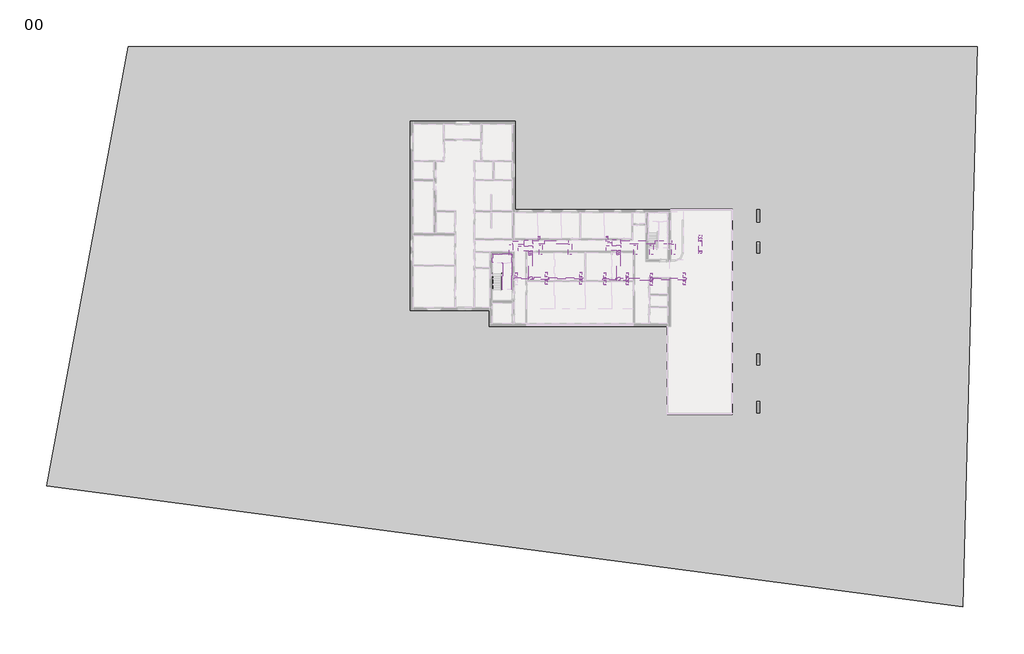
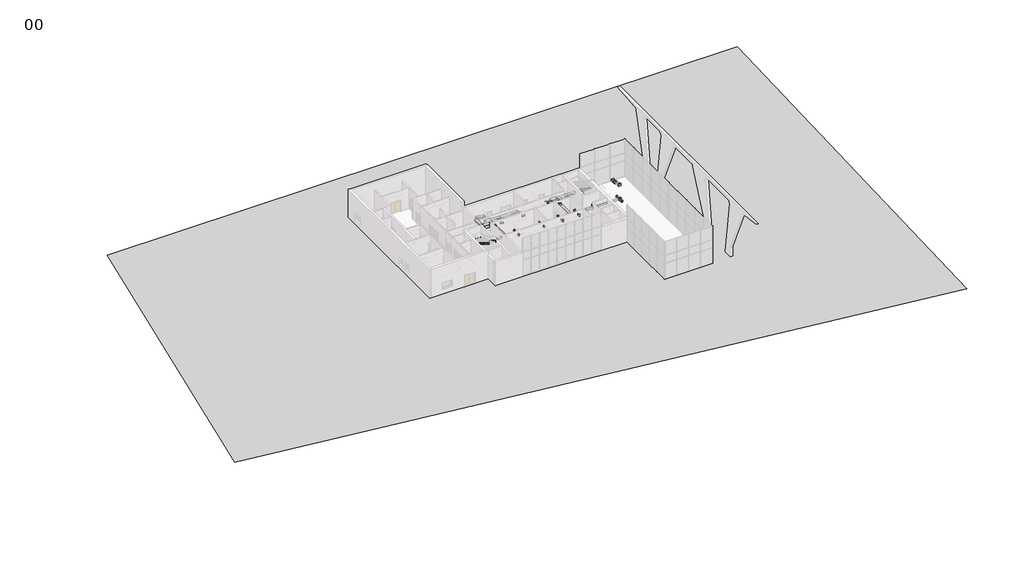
# One storey, part 11 of 12: 45 duct fittings, 45 duct segments, 9 members, 3 proxies.
"""IFC4 building model written with IfcOpenShell, lengths in millimetres."""

from ifc_helpers import new_model, si_unit, frame, origin, place, context, project, spatial, polyline, outline, extrude, faceted_brep, triangles, transform, mapped, element, save
from components import proxy_14_kw_0309e4c2, m_rectangular_duct_cross_standard_bcfa0da6, m_rectangular_duct_cross_standard_d3c43166, m_rectangular_duct_elbow_mitered_standard_79ac9f87, m_rectangular_duct_elbow_mitered_standard_d64d472b, m_rectangular_duct_endcap_standard_ffc747e0, m_rectangular_duct_endcap_standard_359dc76e, m_rectangular_duct_takeoff_standard_e76cbc94, m_rectangular_duct_takeoff_standard_1d6a8af3, m_rectangular_duct_takeoff_standard_c4c0db23, m_rectangular_duct_tee_standard_3909d353, m_rectangular_duct_tee_standard_d7adc033, m_rectangular_duct_transition_angle_45_degree_31185545, m_rectangular_duct_transition_angle_45_degree_3d3c11d7, m_rectangular_duct_transition_angle_45_degree_cab7309d, m_rectangular_duct_transition_angle_45_degree_3830beb0, m_rectangular_duct_transition_angle_45_degree_30f54a79, m_rectangular_duct_transition_angle_45_degree_03303498, m_rectangular_duct_transition_angle_45_degree_0ac15c82, m_rectangular_duct_transition_angle_45_degree_5227b69a, m_rectangular_duct_transition_angle_45_degree_8010bd64, m_rectangular_to_round_duct_transition_angle_45_degree_26f3b062, m_rectangular_to_round_duct_transition_angle_45_degree_5a3a7efe, m_rectangular_to_round_duct_transition_angle_45_degree_6eaa8da4

model = new_model("IFC4")

# Units and contexts
model_context = context("Model", 3, world=origin())
ifc_project = project(units=[si_unit("LENGTHUNIT", "METRE", prefix="MILLI")], contexts=[model_context])

# Site, building, storey
site = spatial("IfcSite", under=ifc_project)
building = spatial("IfcBuilding", under=site)
storey = spatial("IfcBuildingStorey", under=building, Name="00", Elevation=0.0)

# Proxies
placement = place(None, origin())
element("IfcBuildingElementProxy", 1, Name="Building Element Proxy", at=placement, inside=storey, context=model_context, shape_type="Tessellation", body=[
    triangles([(373960.8761719, -359449.724707, 0.0), (486915.2094727, -359492.6244141, 0.0), (484957.7847656, -434074.7138672, 0.0), (363074.3220703, -417951.6049805, 0.0)], [[1, 4, 3], [3, 2, 1]], closed=False),
])
proxy_14_kw_shape = proxy_14_kw_0309e4c2(model_context)
element("IfcBuildingElementProxy", 2, Name="M_WSHP - Horizontal - High Efficiency - 7-18 kW - Left Return - Right Discharge : 14 kW", ObjectType="M_WSHP - Horizontal - High Efficiency - 7-18 kW - Left Return - Right Discharge : 14 kW", at=placement, inside=storey, context=model_context, shape_type="MappedRepresentation", body=[
    mapped(proxy_14_kw_shape, transform((425823.5152403, -386020.6171526, 3297.6296249), x_axis=(0.0, -1.0, 0.0), y_axis=(1.0, 0.0, 0.0), z_axis=(0.0, 0.0, 1.0))),
])
element("IfcBuildingElementProxy", 3, Name="M_WSHP - Horizontal - High Efficiency - 7-18 kW - Left Return - Right Discharge : 14 kW", ObjectType="M_WSHP - Horizontal - High Efficiency - 7-18 kW - Left Return - Right Discharge : 14 kW", at=placement, inside=storey, context=model_context, shape_type="MappedRepresentation", body=[
    mapped(proxy_14_kw_shape, transform((437523.5152403, -385953.3742265, 3297.6296249), x_axis=(0.0, -1.0, 0.0), y_axis=(1.0, 0.0, 0.0), z_axis=(0.0, 0.0, 1.0))),
])

# Duct fittings
m_rectangular_duct_cross_standard_shape = m_rectangular_duct_cross_standard_bcfa0da6(model_context)
element("IfcDuctFitting", 4, ObjectType="M_Rectangular Duct Cross : Standard", at=placement, inside=storey, context=model_context, shape_type="MappedRepresentation", body=[
    mapped(m_rectangular_duct_cross_standard_shape, transform((440349.0152402, -390423.0371375, 3547.5296249), x_axis=(1.0, 0.0, 0.0), y_axis=(0.0, 1.0, 0.0), z_axis=(0.0, 0.0, 1.0))),
])
m_rectangular_duct_cross_standard_2_shape = m_rectangular_duct_cross_standard_d3c43166(model_context)
element("IfcDuctFitting", 5, ObjectType="M_Rectangular Duct Cross : Standard", at=placement, inside=storey, context=model_context, shape_type="MappedRepresentation", body=[
    mapped(m_rectangular_duct_cross_standard_2_shape, transform((443534.0152402, -390423.0371375, 3547.5296249), x_axis=(1.0, 0.0, 0.0), y_axis=(0.0, 1.0, 0.0), z_axis=(0.0, 0.0, 1.0))),
])
m_rectangular_duct_elbow_mitered_standard_shape = m_rectangular_duct_elbow_mitered_standard_79ac9f87(model_context)
element("IfcDuctFitting", 6, ObjectType="M_Rectangular Duct Elbow - Mitered : Standard", at=placement, inside=storey, context=model_context, shape_type="MappedRepresentation", body=[
    mapped(m_rectangular_duct_elbow_mitered_standard_shape, transform((450068.2140217, -384744.0335236, 2897.1296249), x_axis=(0.0, 1.0, 0.0), y_axis=(-1.0, 0.0, 0.0), z_axis=(0.0, 0.0, 1.0))),
])
m_rectangular_duct_elbow_mitered_standard_2_shape = m_rectangular_duct_elbow_mitered_standard_d64d472b(model_context)
element("IfcDuctFitting", 7, ObjectType="M_Rectangular Duct Elbow - Mitered : Standard", at=placement, inside=storey, context=model_context, shape_type="MappedRepresentation", body=[
    mapped(m_rectangular_duct_elbow_mitered_standard_2_shape, transform((450068.2140217, -385315.5954404, 2897.1296249), x_axis=(0.0, -1.0, 0.0), y_axis=(0.0, 0.0, 1.0), z_axis=(-1.0, 0.0, 0.0))),
])
element("IfcDuctFitting", 8, ObjectType="M_Rectangular Duct Elbow - Mitered : Standard", at=placement, inside=storey, context=model_context, shape_type="MappedRepresentation", body=[
    mapped(m_rectangular_duct_elbow_mitered_standard_2_shape, transform((450068.2140217, -386695.8716067, 3247.1296249), x_axis=(0.0, -0.9693222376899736, 0.2457934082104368), y_axis=(0.0, -0.2457934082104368, -0.9693222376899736), z_axis=(1.0, 0.0, 0.0))),
])
m_rectangular_duct_endcap_standard_shape = m_rectangular_duct_endcap_standard_ffc747e0(model_context)
element("IfcDuctFitting", 9, ObjectType="M_Rectangular Duct Endcap : Standard", at=placement, inside=storey, context=model_context, shape_type="MappedRepresentation", body=[
    mapped(m_rectangular_duct_endcap_standard_shape, transform((434399.0152402, -390313.0198881, 3547.5296249), x_axis=(1.0, 0.0, 0.0), y_axis=(0.0, 1.0, 0.0), z_axis=(0.0, 0.0, 1.0))),
])
element("IfcDuctFitting", 10, ObjectType="M_Rectangular Duct Endcap : Standard", at=placement, inside=storey, context=model_context, shape_type="MappedRepresentation", body=[
    mapped(m_rectangular_duct_endcap_standard_shape, transform((448173.309481, -390423.0371375, 3547.5296249), x_axis=(1.0, 0.0, 0.0), y_axis=(0.0, 1.0, 0.0), z_axis=(0.0, 0.0, 1.0))),
])
m_rectangular_duct_endcap_standard_2_shape = m_rectangular_duct_endcap_standard_359dc76e(model_context)
element("IfcDuctFitting", 11, ObjectType="M_Rectangular Duct Endcap : Standard", at=placement, inside=storey, context=model_context, shape_type="MappedRepresentation", body=[
    mapped(m_rectangular_duct_endcap_standard_2_shape, transform((437099.0152402, -390423.0371375, 3547.5296249), x_axis=(-1.0, 0.0, 0.0), y_axis=(0.0, -1.0, 0.0), z_axis=(0.0, 0.0, 1.0))),
])
m_rectangular_duct_takeoff_standard_shape = m_rectangular_duct_takeoff_standard_e76cbc94(model_context)
element("IfcDuctFitting", 12, ObjectType="M_Rectangular Duct Takeoff : Standard", at=placement, inside=storey, context=model_context, shape_type="MappedRepresentation", body=[
    mapped(m_rectangular_duct_takeoff_standard_shape, transform((434149.0152402, -390438.0198881, 3547.5296249), x_axis=(0.0, -1.0, 0.0), y_axis=(-1.0, 0.0, 0.0), z_axis=(0.0, 0.0, -1.0))),
])
element("IfcDuctFitting", 13, ObjectType="M_Rectangular Duct Takeoff : Standard", at=placement, inside=storey, context=model_context, shape_type="MappedRepresentation", body=[
    mapped(m_rectangular_duct_takeoff_standard_shape, transform((429549.0152402, -390150.5198881, 3547.1296249), x_axis=(0.0, 1.0, 0.0), y_axis=(1.0, 0.0, 0.0), z_axis=(0.0, 0.0, -1.0))),
])
element("IfcDuctFitting", 14, ObjectType="M_Rectangular Duct Takeoff : Standard", at=placement, inside=storey, context=model_context, shape_type="MappedRepresentation", body=[
    mapped(m_rectangular_duct_takeoff_standard_shape, transform((429549.0152402, -390475.5198881, 3547.1296249), x_axis=(0.0, -1.0, 0.0), y_axis=(-1.0, 0.0, 0.0), z_axis=(0.0, 0.0, -1.0))),
])
element("IfcDuctFitting", 15, ObjectType="M_Rectangular Duct Takeoff : Standard", at=placement, inside=storey, context=model_context, shape_type="MappedRepresentation", body=[
    mapped(m_rectangular_duct_takeoff_standard_shape, transform((447923.309481, -390548.0371375, 3547.5296249), x_axis=(0.0, -1.0, 0.0), y_axis=(-1.0, 0.0, 0.0), z_axis=(0.0, 0.0, -1.0))),
])
m_rectangular_duct_takeoff_standard_2_shape = m_rectangular_duct_takeoff_standard_1d6a8af3(model_context)
element("IfcDuctFitting", 16, ObjectType="M_Rectangular Duct Takeoff : Standard", at=placement, inside=storey, context=model_context, shape_type="MappedRepresentation", body=[
    mapped(m_rectangular_duct_takeoff_standard_2_shape, transform((434149.0152402, -390188.0198881, 3547.5296249), x_axis=(0.0, 1.0, 0.0), y_axis=(1.0, 0.0, 0.0), z_axis=(0.0, 0.0, -1.0))),
])
element("IfcDuctFitting", 17, ObjectType="M_Rectangular Duct Takeoff : Standard", at=placement, inside=storey, context=model_context, shape_type="MappedRepresentation", body=[
    mapped(m_rectangular_duct_takeoff_standard_2_shape, transform((447923.309481, -390298.0371375, 3547.5296249), x_axis=(0.0, 1.0, 0.0), y_axis=(1.0, 0.0, 0.0), z_axis=(0.0, 0.0, -1.0))),
])
m_rectangular_duct_takeoff_standard_3_shape = m_rectangular_duct_takeoff_standard_c4c0db23(model_context)
element("IfcDuctFitting", 18, ObjectType="M_Rectangular Duct Takeoff : Standard", at=placement, inside=storey, context=model_context, shape_type="MappedRepresentation", body=[
    mapped(m_rectangular_duct_takeoff_standard_3_shape, transform((437349.0152402, -390310.5371375, 3547.5296249), x_axis=(0.0, 1.0, 0.0), y_axis=(1.0, 0.0, 0.0), z_axis=(0.0, 0.0, -1.0))),
])
element("IfcDuctFitting", 19, ObjectType="M_Rectangular Duct Takeoff : Standard", at=placement, inside=storey, context=model_context, shape_type="MappedRepresentation", body=[
    mapped(m_rectangular_duct_takeoff_standard_3_shape, transform((437349.0152402, -390535.5371375, 3547.5296249), x_axis=(0.0, -1.0, 0.0), y_axis=(-1.0, 0.0, 0.0), z_axis=(0.0, 0.0, -1.0))),
])
m_rectangular_duct_tee_standard_shape = m_rectangular_duct_tee_standard_3909d353(model_context)
element("IfcDuctFitting", 20, ObjectType="M_Rectangular Duct Tee : Standard", at=placement, inside=storey, context=model_context, shape_type="MappedRepresentation", body=[
    mapped(m_rectangular_duct_tee_standard_shape, transform((427455.2152403, -390313.0198881, 3547.5296249), x_axis=(1.0, 0.0, 0.0), y_axis=(0.0, -1.0, 0.0), z_axis=(0.0, 0.0, -1.0))),
])
m_rectangular_duct_tee_standard_2_shape = m_rectangular_duct_tee_standard_d7adc033(model_context)
element("IfcDuctFitting", 21, ObjectType="M_Rectangular Duct Tee : Standard", at=placement, inside=storey, context=model_context, shape_type="MappedRepresentation", body=[
    mapped(m_rectangular_duct_tee_standard_2_shape, transform((439155.2152403, -390423.0371375, 3547.5296249), x_axis=(1.0, 0.0, 0.0), y_axis=(0.0, -1.0, 0.0), z_axis=(0.0, 0.0, -1.0))),
])
m_rectangular_duct_transition_angle_45_degree_shape = m_rectangular_duct_transition_angle_45_degree_31185545(model_context)
element("IfcDuctFitting", 22, ObjectType="M_Rectangular Duct Transition - Angle : 45 Degree", at=placement, inside=storey, context=model_context, shape_type="MappedRepresentation", body=[
    mapped(m_rectangular_duct_transition_angle_45_degree_shape, transform((427455.2152403, -386691.1171526, 3560.5296249), x_axis=(0.0, -1.0, 0.0), y_axis=(1.0, 0.0, 0.0), z_axis=(0.0, 0.0, 1.0))),
])
element("IfcDuctFitting", 23, ObjectType="M_Rectangular Duct Transition - Angle : 45 Degree", at=placement, inside=storey, context=model_context, shape_type="MappedRepresentation", body=[
    mapped(m_rectangular_duct_transition_angle_45_degree_shape, transform((439155.2152403, -386623.8742265, 3560.5296249), x_axis=(0.0, -1.0, 0.0), y_axis=(1.0, 0.0, 0.0), z_axis=(0.0, 0.0, 1.0))),
])
m_rectangular_duct_transition_angle_45_degree_2_shape = m_rectangular_duct_transition_angle_45_degree_3d3c11d7(model_context)
element("IfcDuctFitting", 24, ObjectType="M_Rectangular Duct Transition - Angle : 45 Degree", at=placement, inside=storey, context=model_context, shape_type="MappedRepresentation", body=[
    mapped(m_rectangular_duct_transition_angle_45_degree_2_shape, transform((427455.2152403, -387009.194812, 3560.5296249), x_axis=(0.0, -1.0, 0.0), y_axis=(-1.0, 0.0, 0.0), z_axis=(0.0, 0.0, -1.0))),
])
element("IfcDuctFitting", 25, ObjectType="M_Rectangular Duct Transition - Angle : 45 Degree", at=placement, inside=storey, context=model_context, shape_type="MappedRepresentation", body=[
    mapped(m_rectangular_duct_transition_angle_45_degree_2_shape, transform((439155.2152403, -386941.9518859, 3560.5296249), x_axis=(0.0, -1.0, 0.0), y_axis=(-1.0, 0.0, 0.0), z_axis=(0.0, 0.0, -1.0))),
])
m_rectangular_duct_transition_angle_45_degree_3_shape = m_rectangular_duct_transition_angle_45_degree_cab7309d(model_context)
element("IfcDuctFitting", 26, ObjectType="M_Rectangular Duct Transition - Angle : 45 Degree", at=placement, inside=storey, context=model_context, shape_type="MappedRepresentation", body=[
    mapped(m_rectangular_duct_transition_angle_45_degree_3_shape, transform((427217.7152403, -390313.0198881, 3547.5296249), x_axis=(-1.0, 0.0, 0.0), y_axis=(0.0, -1.0, 0.0), z_axis=(0.0, 0.0, 1.0))),
])
m_rectangular_duct_transition_angle_45_degree_4_shape = m_rectangular_duct_transition_angle_45_degree_3830beb0(model_context)
element("IfcDuctFitting", 27, ObjectType="M_Rectangular Duct Transition - Angle : 45 Degree", at=placement, inside=storey, context=model_context, shape_type="MappedRepresentation", body=[
    mapped(m_rectangular_duct_transition_angle_45_degree_4_shape, transform((427692.7152403, -390313.0198881, 3547.5296249), x_axis=(1.0, 0.0, 0.0), y_axis=(0.0, -1.0, 0.0), z_axis=(0.0, 0.0, -1.0))),
])
m_rectangular_duct_transition_angle_45_degree_5_shape = m_rectangular_duct_transition_angle_45_degree_30f54a79(model_context)
element("IfcDuctFitting", 28, ObjectType="M_Rectangular Duct Transition - Angle : 45 Degree", at=placement, inside=storey, context=model_context, shape_type="MappedRepresentation", body=[
    mapped(m_rectangular_duct_transition_angle_45_degree_5_shape, transform((429811.6822317, -390313.0198881, 3547.5296249), x_axis=(1.0, 0.0, 0.0), y_axis=(0.0, -1.0, 0.0), z_axis=(0.0, 0.0, -1.0))),
])
element("IfcDuctFitting", 29, ObjectType="M_Rectangular Duct Transition - Angle : 45 Degree", at=placement, inside=storey, context=model_context, shape_type="MappedRepresentation", body=[
    mapped(m_rectangular_duct_transition_angle_45_degree_5_shape, transform((443684.0152402, -390423.0371375, 3547.5296249), x_axis=(1.0, 0.0, 0.0), y_axis=(0.0, 1.0, 0.0), z_axis=(0.0, 0.0, 1.0))),
])
m_rectangular_duct_transition_angle_45_degree_6_shape = m_rectangular_duct_transition_angle_45_degree_03303498(model_context)
element("IfcDuctFitting", 30, ObjectType="M_Rectangular Duct Transition - Angle : 45 Degree", at=placement, inside=storey, context=model_context, shape_type="MappedRepresentation", body=[
    mapped(m_rectangular_duct_transition_angle_45_degree_6_shape, transform((438917.7152403, -390423.0371375, 3547.5296249), x_axis=(-1.0, 0.0, 0.0), y_axis=(0.0, -1.0, 0.0), z_axis=(0.0, 0.0, 1.0))),
])
m_rectangular_duct_transition_angle_45_degree_7_shape = m_rectangular_duct_transition_angle_45_degree_0ac15c82(model_context)
element("IfcDuctFitting", 31, ObjectType="M_Rectangular Duct Transition - Angle : 45 Degree", at=placement, inside=storey, context=model_context, shape_type="MappedRepresentation", body=[
    mapped(m_rectangular_duct_transition_angle_45_degree_7_shape, transform((440499.0152402, -390423.0371375, 3547.5296249), x_axis=(1.0, 0.0, 0.0), y_axis=(0.0, 1.0, 0.0), z_axis=(0.0, 0.0, 1.0))),
])
m_rectangular_duct_transition_angle_45_degree_8_shape = m_rectangular_duct_transition_angle_45_degree_5227b69a(model_context)
element("IfcDuctFitting", 32, ObjectType="M_Rectangular Duct Transition - Angle : 45 Degree", at=placement, inside=storey, context=model_context, shape_type="MappedRepresentation", body=[
    mapped(m_rectangular_duct_transition_angle_45_degree_8_shape, transform((440349.0152402, -390623.0371375, 3547.5296249), x_axis=(0.0, -1.0, 0.0), y_axis=(1.0, 0.0, 0.0), z_axis=(0.0, 0.0, 1.0))),
])
element("IfcDuctFitting", 33, ObjectType="M_Rectangular Duct Transition - Angle : 45 Degree", at=placement, inside=storey, context=model_context, shape_type="MappedRepresentation", body=[
    mapped(m_rectangular_duct_transition_angle_45_degree_8_shape, transform((440349.0152402, -390223.0371375, 3547.5296249), x_axis=(0.0, 1.0, 0.0), y_axis=(-1.0, 0.0, 0.0), z_axis=(0.0, 0.0, 1.0))),
])
m_rectangular_duct_transition_angle_45_degree_9_shape = m_rectangular_duct_transition_angle_45_degree_8010bd64(model_context)
element("IfcDuctFitting", 34, ObjectType="M_Rectangular Duct Transition - Angle : 45 Degree", at=placement, inside=storey, context=model_context, shape_type="MappedRepresentation", body=[
    mapped(m_rectangular_duct_transition_angle_45_degree_9_shape, transform((443534.0152402, -390610.5371375, 3547.5296249), x_axis=(0.0, -1.0, 0.0), y_axis=(1.0, 0.0, 0.0), z_axis=(0.0, 0.0, 1.0))),
])
element("IfcDuctFitting", 35, ObjectType="M_Rectangular Duct Transition - Angle : 45 Degree", at=placement, inside=storey, context=model_context, shape_type="MappedRepresentation", body=[
    mapped(m_rectangular_duct_transition_angle_45_degree_9_shape, transform((443534.0152402, -390235.5371375, 3547.5296249), x_axis=(0.0, 1.0, 0.0), y_axis=(-1.0, 0.0, 0.0), z_axis=(0.0, 0.0, 1.0))),
])
m_rectangular_to_round_duct_transition_angle_45_degree_shape = m_rectangular_to_round_duct_transition_angle_45_degree_26f3b062(model_context)
element("IfcDuctFitting", 36, ObjectType="M_Rectangular to Round Duct Transition - Angle : 45 Degree", at=placement, inside=storey, context=model_context, shape_type="MappedRepresentation", body=[
    mapped(m_rectangular_to_round_duct_transition_angle_45_degree_shape, transform((434149.0152402, -391058.4756468, 3547.5296249), x_axis=(0.0, -1.0, 0.0), y_axis=(-1.0, 0.0, 0.0), z_axis=(0.0, 0.0, -1.0))),
])
element("IfcDuctFitting", 37, ObjectType="M_Rectangular to Round Duct Transition - Angle : 45 Degree", at=placement, inside=storey, context=model_context, shape_type="MappedRepresentation", body=[
    mapped(m_rectangular_to_round_duct_transition_angle_45_degree_shape, transform((429549.0152402, -389567.5641294, 3547.1296249), x_axis=(0.0, 1.0, 0.0), y_axis=(1.0, 0.0, 0.0), z_axis=(0.0, 0.0, -1.0))),
])
element("IfcDuctFitting", 38, ObjectType="M_Rectangular to Round Duct Transition - Angle : 45 Degree", at=placement, inside=storey, context=model_context, shape_type="MappedRepresentation", body=[
    mapped(m_rectangular_to_round_duct_transition_angle_45_degree_shape, transform((429549.0152402, -391083.8146334, 3547.1296249), x_axis=(0.0, -1.0, 0.0), y_axis=(-1.0, 0.0, 0.0), z_axis=(0.0, 0.0, -1.0))),
])
element("IfcDuctFitting", 39, ObjectType="M_Rectangular to Round Duct Transition - Angle : 45 Degree", at=placement, inside=storey, context=model_context, shape_type="MappedRepresentation", body=[
    mapped(m_rectangular_to_round_duct_transition_angle_45_degree_shape, transform((434149.0152402, -389542.2251428, 3547.5296249), x_axis=(0.0, 1.0, 0.0), y_axis=(1.0, 0.0, 0.0), z_axis=(0.0, 0.0, -1.0))),
])
element("IfcDuctFitting", 40, ObjectType="M_Rectangular to Round Duct Transition - Angle : 45 Degree", at=placement, inside=storey, context=model_context, shape_type="MappedRepresentation", body=[
    mapped(m_rectangular_to_round_duct_transition_angle_45_degree_shape, transform((447923.309481, -391165.8265467, 3547.5296249), x_axis=(0.0, -1.0, 0.0), y_axis=(-1.0, 0.0, 0.0), z_axis=(0.0, 0.0, -1.0))),
])
element("IfcDuctFitting", 41, ObjectType="M_Rectangular to Round Duct Transition - Angle : 45 Degree", at=placement, inside=storey, context=model_context, shape_type="MappedRepresentation", body=[
    mapped(m_rectangular_to_round_duct_transition_angle_45_degree_shape, transform((443534.0152402, -391211.8340752, 3547.5296249), x_axis=(0.0, -1.0, 0.0), y_axis=(-1.0, 0.0, 0.0), z_axis=(0.0, 0.0, -1.0))),
])
element("IfcDuctFitting", 42, ObjectType="M_Rectangular to Round Duct Transition - Angle : 45 Degree", at=placement, inside=storey, context=model_context, shape_type="MappedRepresentation", body=[
    mapped(m_rectangular_to_round_duct_transition_angle_45_degree_shape, transform((443534.0152402, -389695.5835712, 3547.5296249), x_axis=(0.0, 1.0, 0.0), y_axis=(1.0, 0.0, 0.0), z_axis=(0.0, 0.0, -1.0))),
])
element("IfcDuctFitting", 43, ObjectType="M_Rectangular to Round Duct Transition - Angle : 45 Degree", at=placement, inside=storey, context=model_context, shape_type="MappedRepresentation", body=[
    mapped(m_rectangular_to_round_duct_transition_angle_45_degree_shape, transform((440349.0152402, -391150.4907039, 3547.5296249), x_axis=(0.0, -1.0, 0.0), y_axis=(-1.0, 0.0, 0.0), z_axis=(0.0, 0.0, -1.0))),
])
element("IfcDuctFitting", 44, ObjectType="M_Rectangular to Round Duct Transition - Angle : 45 Degree", at=placement, inside=storey, context=model_context, shape_type="MappedRepresentation", body=[
    mapped(m_rectangular_to_round_duct_transition_angle_45_degree_shape, transform((440349.0152402, -389634.2401999, 3547.5296249), x_axis=(0.0, 1.0, 0.0), y_axis=(1.0, 0.0, 0.0), z_axis=(0.0, 0.0, -1.0))),
])
element("IfcDuctFitting", 45, ObjectType="M_Rectangular to Round Duct Transition - Angle : 45 Degree", at=placement, inside=storey, context=model_context, shape_type="MappedRepresentation", body=[
    mapped(m_rectangular_to_round_duct_transition_angle_45_degree_shape, transform((425549.0152402, -389634.8070555, 3672.5296249), x_axis=(0.0, 1.0, 0.0), y_axis=(-1.0, 0.0, 0.0), z_axis=(0.0, 0.0, 1.0))),
])
m_rectangular_to_round_duct_transition_angle_45_degree_2_shape = m_rectangular_to_round_duct_transition_angle_45_degree_5a3a7efe(model_context)
element("IfcDuctFitting", 46, ObjectType="M_Rectangular to Round Duct Transition - Angle : 45 Degree", at=placement, inside=storey, context=model_context, shape_type="MappedRepresentation", body=[
    mapped(m_rectangular_to_round_duct_transition_angle_45_degree_2_shape, transform((437349.0152402, -389634.2401999, 3547.5296249), x_axis=(0.0, 1.0, 0.0), y_axis=(1.0, 0.0, 0.0), z_axis=(0.0, 0.0, -1.0))),
])
element("IfcDuctFitting", 47, ObjectType="M_Rectangular to Round Duct Transition - Angle : 45 Degree", at=placement, inside=storey, context=model_context, shape_type="MappedRepresentation", body=[
    mapped(m_rectangular_to_round_duct_transition_angle_45_degree_2_shape, transform((437349.0152402, -391150.4907039, 3547.5296249), x_axis=(0.0, -1.0, 0.0), y_axis=(-1.0, 0.0, 0.0), z_axis=(0.0, 0.0, -1.0))),
])
m_rectangular_to_round_duct_transition_angle_45_degree_3_shape = m_rectangular_to_round_duct_transition_angle_45_degree_6eaa8da4(model_context)
element("IfcDuctFitting", 48, ObjectType="M_Rectangular to Round Duct Transition - Angle : 45 Degree", at=placement, inside=storey, context=model_context, shape_type="MappedRepresentation", body=[
    mapped(m_rectangular_to_round_duct_transition_angle_45_degree_3_shape, transform((447923.309481, -389587.0760427, 3547.5296249), x_axis=(0.0, 1.0, 0.0), y_axis=(-1.0, 0.0, 0.0), z_axis=(0.0, 0.0, 1.0))),
])

# Duct segments
element("IfcDuctSegment", 49, ObjectType="Mitered Elbows / Taps", at=placement, inside=storey, context=model_context, shape_type="SweptSolid", body=[
    extrude(outline(polyline([(425674.0152402, -390086.4198881), (425424.0152402, -390086.4198881), (425424.0152402, -389634.8070555), (425674.0152402, -389634.8070555), (425674.0152402, -390086.4198881)])), frame((0.0, 0.0, 3547.5296249), z_axis=(0.0, 0.0, 1.0), x_axis=(1.0, 0.0, 0.0)), (0.0, 0.0, 1.0), 250.0),
])
element("IfcDuctSegment", 50, ObjectType="Mitered Elbows / Taps", at=placement, inside=storey, context=model_context, shape_type="SweptSolid", body=[
    extrude(outline(polyline([(429424.0152402, -389567.5641294), (429674.0152402, -389567.5641294), (429674.0152402, -390048.9198881), (429424.0152402, -390048.9198881), (429424.0152402, -389567.5641294)])), frame((0.0, 0.0, 3422.1296249), z_axis=(0.0, 0.0, 1.0), x_axis=(1.0, 0.0, 0.0)), (0.0, 0.0, 1.0), 250.0),
])
element("IfcDuctSegment", 51, ObjectType="Mitered Elbows / Taps", at=placement, inside=storey, context=model_context, shape_type="SweptSolid", body=[
    extrude(outline(polyline([(429674.0152402, -391083.8146334), (429424.0152402, -391083.8146334), (429424.0152402, -390577.1198881), (429674.0152402, -390577.1198881), (429674.0152402, -391083.8146334)])), frame((0.0, 0.0, 3422.1296249), z_axis=(0.0, 0.0, 1.0), x_axis=(1.0, 0.0, 0.0)), (0.0, 0.0, 1.0), 250.0),
])
element("IfcDuctSegment", 52, ObjectType="Mitered Elbows / Taps", at=placement, inside=storey, context=model_context, shape_type="SweptSolid", body=[
    extrude(outline(polyline([(434024.0152402, -389542.2251428), (434274.0152402, -389542.2251428), (434274.0152402, -390086.4198881), (434024.0152402, -390086.4198881), (434024.0152402, -389542.2251428)])), frame((0.0, 0.0, 3422.5296249), z_axis=(0.0, 0.0, 1.0), x_axis=(1.0, 0.0, 0.0)), (0.0, 0.0, 1.0), 250.0),
])
element("IfcDuctSegment", 53, ObjectType="Mitered Elbows / Taps", at=placement, inside=storey, context=model_context, shape_type="SweptSolid", body=[
    extrude(outline(polyline([(434024.0152402, -390539.6198881), (434274.0152402, -390539.6198881), (434274.0152402, -391058.4756468), (434024.0152402, -391058.4756468), (434024.0152402, -390539.6198881)])), frame((0.0, 0.0, 3422.5296249), z_axis=(0.0, 0.0, 1.0), x_axis=(1.0, 0.0, 0.0)), (0.0, 0.0, 1.0), 250.0),
])
element("IfcDuctSegment", 54, ObjectType="Mitered Elbows / Taps", at=placement, inside=storey, context=model_context, shape_type="SweptSolid", body=[
    extrude(outline(polyline([(437474.0152402, -390208.9371375), (437224.0152402, -390208.9371375), (437224.0152402, -389634.2401999), (437474.0152402, -389634.2401999), (437474.0152402, -390208.9371375)])), frame((0.0, 0.0, 3435.0296249), z_axis=(0.0, 0.0, 1.0), x_axis=(1.0, 0.0, 0.0)), (0.0, 0.0, 1.0), 225.0),
])
element("IfcDuctSegment", 55, ObjectType="Mitered Elbows / Taps", at=placement, inside=storey, context=model_context, shape_type="SweptSolid", body=[
    extrude(outline(polyline([(437474.0152402, -391150.4907039), (437224.0152402, -391150.4907039), (437224.0152402, -390637.1371375), (437474.0152402, -390637.1371375), (437474.0152402, -391150.4907039)])), frame((0.0, 0.0, 3435.0296249), z_axis=(0.0, 0.0, 1.0), x_axis=(1.0, 0.0, 0.0)), (0.0, 0.0, 1.0), 225.0),
])
element("IfcDuctSegment", 56, ObjectType="Mitered Elbows / Taps", at=placement, inside=storey, context=model_context, shape_type="SweptSolid", body=[
    extrude(outline(polyline([(440474.0152402, -390098.0371375), (440224.0152402, -390098.0371375), (440224.0152402, -389634.2401999), (440474.0152402, -389634.2401999), (440474.0152402, -390098.0371375)])), frame((0.0, 0.0, 3422.5296249), z_axis=(0.0, 0.0, 1.0), x_axis=(1.0, 0.0, 0.0)), (0.0, 0.0, 1.0), 250.0),
])
element("IfcDuctSegment", 57, ObjectType="Mitered Elbows / Taps", at=placement, inside=storey, context=model_context, shape_type="SweptSolid", body=[
    extrude(outline(polyline([(440224.0152402, -390748.0371375), (440474.0152402, -390748.0371375), (440474.0152402, -391150.4907039), (440224.0152402, -391150.4907039), (440224.0152402, -390748.0371375)])), frame((0.0, 0.0, 3422.5296249), z_axis=(0.0, 0.0, 1.0), x_axis=(1.0, 0.0, 0.0)), (0.0, 0.0, 1.0), 250.0),
])
element("IfcDuctSegment", 58, ObjectType="Mitered Elbows / Taps", at=placement, inside=storey, context=model_context, shape_type="SweptSolid", body=[
    extrude(outline(polyline([(443659.0152402, -390110.5371375), (443409.0152402, -390110.5371375), (443409.0152402, -389695.5835712), (443659.0152402, -389695.5835712), (443659.0152402, -390110.5371375)])), frame((0.0, 0.0, 3422.5296249), z_axis=(0.0, 0.0, 1.0), x_axis=(1.0, 0.0, 0.0)), (0.0, 0.0, 1.0), 250.0),
])
element("IfcDuctSegment", 59, ObjectType="Mitered Elbows / Taps", at=placement, inside=storey, context=model_context, shape_type="SweptSolid", body=[
    extrude(outline(polyline([(443409.0152402, -390735.5371375), (443659.0152402, -390735.5371375), (443659.0152402, -391211.8340752), (443409.0152402, -391211.8340752), (443409.0152402, -390735.5371375)])), frame((0.0, 0.0, 3422.5296249), z_axis=(0.0, 0.0, 1.0), x_axis=(1.0, 0.0, 0.0)), (0.0, 0.0, 1.0), 250.0),
])
element("IfcDuctSegment", 60, ObjectType="Mitered Elbows / Taps", at=placement, inside=storey, context=model_context, shape_type="SweptSolid", body=[
    extrude(outline(polyline([(447798.309481, -390649.6371375), (448048.309481, -390649.6371375), (448048.309481, -391165.8265467), (447798.309481, -391165.8265467), (447798.309481, -390649.6371375)])), frame((0.0, 0.0, 3422.5296249), z_axis=(0.0, 0.0, 1.0), x_axis=(1.0, 0.0, 0.0)), (0.0, 0.0, 1.0), 250.0),
])
element("IfcDuctSegment", 61, ObjectType="Mitered Elbows / Taps", at=placement, inside=storey, context=model_context, shape_type="SweptSolid", body=[
    extrude(outline(polyline([(427703.1152403, -385995.2171526), (426653.1152403, -385995.2171526), (426653.1152403, -385195.2171526), (427703.1152403, -385195.2171526), (427703.1152403, -385995.2171526)])), frame((0.0, 0.0, 3318.1296249), z_axis=(0.0, 0.0, 1.0), x_axis=(1.0, 0.0, 0.0)), (0.0, 0.0, 1.0), 500.0),
])
element("IfcDuctSegment", 62, ObjectType="Mitered Elbows / Taps", at=placement, inside=storey, context=model_context, shape_type="SweptSolid", body=[
    extrude(outline(polyline([(439403.1152403, -385927.9742265), (438353.1152403, -385927.9742265), (438353.1152403, -385127.9742265), (439403.1152403, -385127.9742265), (439403.1152403, -385927.9742265)])), frame((0.0, 0.0, 3318.1296249), z_axis=(0.0, 0.0, 1.0), x_axis=(1.0, 0.0, 0.0)), (0.0, 0.0, 1.0), 500.0),
])
element("IfcDuctSegment", 63, ObjectType="Mitered Elbows / Taps", at=placement, inside=storey, context=model_context, shape_type="SweptSolid", body=[
    extrude(outline(polyline([(439528.1152403, -385777.9742265), (439528.1152403, -385277.9742265), (444003.1152403, -385277.9742265), (444003.1152403, -385777.9742265), (439528.1152403, -385777.9742265)])), frame((0.0, 0.0, 3443.1296249), z_axis=(0.0, 0.0, 1.0), x_axis=(1.0, 0.0, 0.0)), (0.0, 0.0, 1.0), 250.0),
])
element("IfcDuctSegment", 64, ObjectType="Mitered Elbows / Taps", at=placement, inside=storey, context=model_context, shape_type="SweptSolid", body=[
    extrude(outline(polyline([(444063.4705793, -385752.9742265), (444063.4705793, -385302.9742265), (446253.1152403, -385302.9742265), (446253.1152403, -385752.9742265), (444063.4705793, -385752.9742265)])), frame((0.0, 0.0, 3468.1296249), z_axis=(0.0, 0.0, 1.0), x_axis=(1.0, 0.0, 0.0)), (0.0, 0.0, 1.0), 200.0),
])
element("IfcDuctSegment", 65, ObjectType="Mitered Elbows / Taps", at=placement, inside=storey, context=model_context, shape_type="SweptSolid", body=[
    extrude(outline(polyline([(446278.1152403, -385777.9742265), (446728.1152403, -385777.9742265), (446728.1152403, -387127.9742265), (446278.1152403, -387127.9742265), (446278.1152403, -385777.9742265)])), frame((0.0, 0.0, 3468.1296249), z_axis=(0.0, 0.0, 1.0), x_axis=(1.0, 0.0, 0.0)), (0.0, 0.0, 1.0), 200.0),
])
element("IfcDuctSegment", 66, ObjectType="Mitered Elbows / Taps", at=placement, inside=storey, context=model_context, shape_type="SweptSolid", body=[
    extrude(outline(polyline([(443309.8369942, -385890.4742265), (443759.8369942, -385890.4742265), (443759.8369942, -387127.9742265), (443309.8369942, -387127.9742265), (443309.8369942, -385890.4742265)])), frame((0.0, 0.0, 3468.1296249), z_axis=(0.0, 0.0, 1.0), x_axis=(1.0, 0.0, 0.0)), (0.0, 0.0, 1.0), 200.0),
])
element("IfcDuctSegment", 67, ObjectType="Mitered Elbows / Taps", at=placement, inside=storey, context=model_context, shape_type="SweptSolid", body=[
    extrude(outline(polyline([(441213.4985993, -385890.4742265), (441663.4985993, -385890.4742265), (441663.4985993, -387127.9742265), (441213.4985993, -387127.9742265), (441213.4985993, -385890.4742265)])), frame((0.0, 0.0, 3468.1296249), z_axis=(0.0, 0.0, 1.0), x_axis=(1.0, 0.0, 0.0)), (0.0, 0.0, 1.0), 200.0),
])
element("IfcDuctSegment", 68, ObjectType="Mitered Elbows / Taps", at=placement, inside=storey, context=model_context, shape_type="SweptSolid", body=[
    extrude(outline(polyline([(427828.1152403, -385777.9742265), (427828.1152403, -385277.9742265), (429303.1152403, -385277.9742265), (429303.1152403, -385777.9742265), (427828.1152403, -385777.9742265)])), frame((0.0, 0.0, 3443.1296249), z_axis=(0.0, 0.0, 1.0), x_axis=(1.0, 0.0, 0.0)), (0.0, 0.0, 1.0), 250.0),
])
element("IfcDuctSegment", 69, ObjectType="Mitered Elbows / Taps", at=placement, inside=storey, context=model_context, shape_type="SweptSolid", body=[
    extrude(outline(polyline([(429363.4705793, -385752.9742265), (429363.4705793, -385302.9742265), (432453.1152403, -385302.9742265), (432453.1152403, -385752.9742265), (429363.4705793, -385752.9742265)])), frame((0.0, 0.0, 3468.1296249), z_axis=(0.0, 0.0, 1.0), x_axis=(1.0, 0.0, 0.0)), (0.0, 0.0, 1.0), 200.0),
])
element("IfcDuctSegment", 70, ObjectType="Mitered Elbows / Taps", at=placement, inside=storey, context=model_context, shape_type="SweptSolid", body=[
    extrude(outline(polyline([(432478.1152403, -385777.9742265), (432928.1152403, -385777.9742265), (432928.1152403, -387127.9742265), (432478.1152403, -387127.9742265), (432478.1152403, -385777.9742265)])), frame((0.0, 0.0, 3468.1296249), z_axis=(0.0, 0.0, 1.0), x_axis=(1.0, 0.0, 0.0)), (0.0, 0.0, 1.0), 200.0),
])
element("IfcDuctSegment", 71, ObjectType="Mitered Elbows / Taps", at=placement, inside=storey, context=model_context, shape_type="SweptSolid", body=[
    extrude(outline(polyline([(428590.8426861, -385890.4742265), (429040.8426861, -385890.4742265), (429040.8426861, -387127.9742265), (428590.8426861, -387127.9742265), (428590.8426861, -385890.4742265)])), frame((0.0, 0.0, 3468.1296249), z_axis=(0.0, 0.0, 1.0), x_axis=(1.0, 0.0, 0.0)), (0.0, 0.0, 1.0), 200.0),
])
element("IfcDuctSegment", 72, ObjectType="Mitered Elbows / Taps", at=placement, inside=storey, context=model_context, shape_type="SweptSolid", body=[
    extrude(outline(polyline([(426540.6152403, -385370.2171526), (426540.6152403, -385820.2171526), (425103.1152403, -385820.2171526), (425103.1152403, -385370.2171526), (426540.6152403, -385370.2171526)])), frame((0.0, 0.0, 4771.0), z_axis=(0.0, 0.0, 1.0), x_axis=(1.0, 0.0, 0.0)), (0.0, 0.0, 1.0), 200.0),
])
element("IfcDuctSegment", 73, ObjectType="Mitered Elbows / Taps", at=placement, inside=storey, context=model_context, shape_type="SweptSolid", body=[
    extrude(outline(polyline([(424628.1152403, -385845.2171526), (425078.1152403, -385845.2171526), (425078.1152403, -387195.2171526), (424628.1152403, -387195.2171526), (424628.1152403, -385845.2171526)])), frame((0.0, 0.0, 4771.0), z_axis=(0.0, 0.0, 1.0), x_axis=(1.0, 0.0, 0.0)), (0.0, 0.0, 1.0), 200.0),
])
element("IfcDuctSegment", 74, ObjectType="Mitered Elbows / Taps", at=placement, inside=storey, context=model_context, shape_type="SweptSolid", body=[
    extrude(outline(polyline([(438251.5152403, -385427.9742265), (438251.5152403, -385627.9742265), (437778.1152403, -385627.9742265), (437778.1152403, -385427.9742265), (438251.5152403, -385427.9742265)])), frame((0.0, 0.0, 3493.1296249), z_axis=(0.0, 0.0, 1.0), x_axis=(1.0, 0.0, 0.0)), (0.0, 0.0, 1.0), 150.0),
])
element("IfcDuctSegment", 75, ObjectType="Mitered Elbows / Taps", at=placement, inside=storey, context=model_context, shape_type="SweptSolid", body=[
    extrude(outline(polyline([(437553.1152403, -384844.0335236), (437753.1152403, -384844.0335236), (437753.1152403, -385402.9742265), (437553.1152403, -385402.9742265), (437553.1152403, -384844.0335236)])), frame((0.0, 0.0, 3493.1296249), z_axis=(0.0, 0.0, 1.0), x_axis=(1.0, 0.0, 0.0)), (0.0, 0.0, 1.0), 150.0),
])
element("IfcDuctSegment", 76, ObjectType="Mitered Elbows / Taps", at=placement, inside=storey, context=model_context, shape_type="SweptSolid", body=[
    extrude(outline(polyline([(437553.1152403, -384669.0335236), (437753.1152403, -384669.0335236), (437753.1152403, -384819.0335236), (437553.1152403, -384819.0335236), (437553.1152403, -384669.0335236)])), frame((0.0, 0.0, 3173.7296249), z_axis=(0.0, 0.0, 1.0), x_axis=(1.0, 0.0, 0.0)), (0.0, 0.0, 1.0), 294.4),
])
element("IfcDuctSegment", 77, ObjectType="Mitered Elbows / Taps", at=placement, inside=storey, context=model_context, shape_type="SweptSolid", body=[
    extrude(outline(polyline([(428465.6152403, -384844.0335236), (428665.6152403, -384844.0335236), (428665.6152403, -385176.3742265), (428465.6152403, -385176.3742265), (428465.6152403, -384844.0335236)])), frame((0.0, 0.0, 3493.1296249), z_axis=(0.0, 0.0, 1.0), x_axis=(1.0, 0.0, 0.0)), (0.0, 0.0, 1.0), 150.0),
])
element("IfcDuctSegment", 78, ObjectType="Mitered Elbows / Taps", at=placement, inside=storey, context=model_context, shape_type="SweptSolid", body=[
    extrude(outline(polyline([(428465.6152403, -384669.0335236), (428665.6152403, -384669.0335236), (428665.6152403, -384819.0335236), (428465.6152403, -384819.0335236), (428465.6152403, -384669.0335236)])), frame((0.0, 0.0, 3173.7296249), z_axis=(0.0, 0.0, 1.0), x_axis=(1.0, 0.0, 0.0)), (0.0, 0.0, 1.0), 294.4),
])
element("IfcDuctSegment", 79, ObjectType="Mitered Elbows / Taps", at=placement, inside=storey, context=model_context, shape_type="SweptSolid", body=[
    extrude(outline(polyline([(449868.2140217, -384969.0335236), (450268.2140217, -384969.0335236), (450268.2140217, -385268.753486), (449868.2140217, -385268.753486), (449868.2140217, -384969.0335236)])), frame((0.0, 0.0, 2722.1296249), z_axis=(0.0, 0.0, 1.0), x_axis=(1.0, 0.0, 0.0)), (0.0, 0.0, 1.0), 350.0),
])
element("IfcDuctSegment", 80, ObjectType="Mitered Elbows / Taps", at=placement, inside=storey, context=model_context, shape_type="SweptSolid", body=[
    extrude(outline(polyline([(0.0, -400.0), (0.0, 0.0), (1330.2761662, 0.0), (1330.2761662, -400.0), (0.0, -400.0)])), frame((450268.2140217, -385404.0142349, 2739.0116769), z_axis=(0.0, 0.24579340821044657, 0.9693222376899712), x_axis=(0.0, -0.9693222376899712, 0.24579340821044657)), (0.0, 0.0, 1.0), 350.0),
])
element("IfcDuctSegment", 81, ObjectType="Mitered Elbows / Taps", at=placement, inside=storey, context=model_context, shape_type="SweptSolid", body=[
    extrude(outline(polyline([(449868.2140217, -386742.7135611), (450268.2140217, -386742.7135611), (450268.2140217, -387042.4335236), (449868.2140217, -387042.4335236), (449868.2140217, -386742.7135611)])), frame((0.0, 0.0, 3072.1296249), z_axis=(0.0, 0.0, 1.0), x_axis=(1.0, 0.0, 0.0)), (0.0, 0.0, 1.0), 350.0),
])
element("IfcDuctSegment", 82, ObjectType="Mitered Elbows / Taps", at=placement, inside=storey, context=model_context, shape_type="SweptSolid", body=[
    extrude(outline(polyline([(447798.309481, -389587.0760427), (448048.309481, -389587.0760427), (448048.309481, -390196.4371375), (447798.309481, -390196.4371375), (447798.309481, -389587.0760427)])), frame((0.0, 0.0, 3422.5296249), z_axis=(0.0, 0.0, 1.0), x_axis=(1.0, 0.0, 0.0)), (0.0, 0.0, 1.0), 250.0),
])
element("IfcDuctSegment", 83, ObjectType="Mitered Elbows / Tees", at=placement, inside=storey, context=model_context, shape_type="SweptSolid", body=[
    extrude(outline(polyline([(427242.7152403, -386721.2948221), (427667.7152403, -386721.2948221), (427667.7152403, -387009.194812), (427242.7152403, -387009.194812), (427242.7152403, -386721.2948221)])), frame((0.0, 0.0, 3385.5296249), z_axis=(0.0, 0.0, 1.0), x_axis=(1.0, 0.0, 0.0)), (0.0, 0.0, 1.0), 350.0),
])
element("IfcDuctSegment", 84, ObjectType="Mitered Elbows / Tees", at=placement, inside=storey, context=model_context, shape_type="SweptSolid", body=[
    extrude(outline(polyline([(427667.7152403, -390125.5198881), (427242.7152403, -390125.5198881), (427242.7152403, -387221.694812), (427667.7152403, -387221.694812), (427667.7152403, -390125.5198881)])), frame((0.0, 0.0, 3372.5296249), z_axis=(0.0, 0.0, 1.0), x_axis=(1.0, 0.0, 0.0)), (0.0, 0.0, 1.0), 350.0),
])
element("IfcDuctSegment", 85, ObjectType="Mitered Elbows / Tees", at=placement, inside=storey, context=model_context, shape_type="SweptSolid", body=[
    extrude(outline(polyline([(429902.2152403, -390438.0198881), (429902.2152403, -390188.0198881), (434399.0152402, -390188.0198881), (434399.0152402, -390438.0198881), (429902.2152403, -390438.0198881)])), frame((0.0, 0.0, 3422.5296249), z_axis=(0.0, 0.0, 1.0), x_axis=(1.0, 0.0, 0.0)), (0.0, 0.0, 1.0), 250.0),
])
element("IfcDuctSegment", 86, ObjectType="Mitered Elbows / Tees", at=placement, inside=storey, context=model_context, shape_type="SweptSolid", body=[
    extrude(outline(polyline([(425299.0152402, -390438.0198881), (425299.0152402, -390188.0198881), (427127.1822317, -390188.0198881), (427127.1822317, -390438.0198881), (425299.0152402, -390438.0198881)])), frame((0.0, 0.0, 3422.5296249), z_axis=(0.0, 0.0, 1.0), x_axis=(1.0, 0.0, 0.0)), (0.0, 0.0, 1.0), 250.0),
])
element("IfcDuctSegment", 87, ObjectType="Mitered Elbows / Tees", at=placement, inside=storey, context=model_context, shape_type="SweptSolid", body=[
    extrude(outline(polyline([(427855.2152403, -390475.5198881), (427855.2152403, -390150.5198881), (429811.6822317, -390150.5198881), (429811.6822317, -390475.5198881), (427855.2152403, -390475.5198881)])), frame((0.0, 0.0, 3385.0296249), z_axis=(0.0, 0.0, 1.0), x_axis=(1.0, 0.0, 0.0)), (0.0, 0.0, 1.0), 325.0),
])
element("IfcDuctSegment", 88, ObjectType="Mitered Elbows / Tees", at=placement, inside=storey, context=model_context, shape_type="SweptSolid", body=[
    extrude(outline(polyline([(438942.7152403, -386654.051896), (439367.7152403, -386654.051896), (439367.7152403, -386941.9518859), (438942.7152403, -386941.9518859), (438942.7152403, -386654.051896)])), frame((0.0, 0.0, 3385.5296249), z_axis=(0.0, 0.0, 1.0), x_axis=(1.0, 0.0, 0.0)), (0.0, 0.0, 1.0), 350.0),
])
element("IfcDuctSegment", 89, ObjectType="Mitered Elbows / Tees", at=placement, inside=storey, context=model_context, shape_type="SweptSolid", body=[
    extrude(outline(polyline([(439367.7152403, -390223.0371375), (438942.7152403, -390223.0371375), (438942.7152403, -387154.4518859), (439367.7152403, -387154.4518859), (439367.7152403, -390223.0371375)])), frame((0.0, 0.0, 3372.5296249), z_axis=(0.0, 0.0, 1.0), x_axis=(1.0, 0.0, 0.0)), (0.0, 0.0, 1.0), 350.0),
])
element("IfcDuctSegment", 90, ObjectType="Mitered Elbows / Tees", at=placement, inside=storey, context=model_context, shape_type="SweptSolid", body=[
    extrude(outline(polyline([(439392.7152403, -390598.0371375), (439392.7152403, -390248.0371375), (440199.0152402, -390248.0371375), (440199.0152402, -390598.0371375), (439392.7152403, -390598.0371375)])), frame((0.0, 0.0, 3372.5296249), z_axis=(0.0, 0.0, 1.0), x_axis=(1.0, 0.0, 0.0)), (0.0, 0.0, 1.0), 350.0),
])
element("IfcDuctSegment", 91, ObjectType="Mitered Elbows / Tees", at=placement, inside=storey, context=model_context, shape_type="SweptSolid", body=[
    extrude(outline(polyline([(440529.1929097, -390585.5371375), (440529.1929097, -390260.5371375), (443384.0152402, -390260.5371375), (443384.0152402, -390585.5371375), (440529.1929097, -390585.5371375)])), frame((0.0, 0.0, 3385.0296249), z_axis=(0.0, 0.0, 1.0), x_axis=(1.0, 0.0, 0.0)), (0.0, 0.0, 1.0), 325.0),
])
element("IfcDuctSegment", 92, ObjectType="Mitered Elbows / Tees", at=placement, inside=storey, context=model_context, shape_type="SweptSolid", body=[
    extrude(outline(polyline([(443774.5482488, -390548.0371375), (443774.5482488, -390298.0371375), (448173.309481, -390298.0371375), (448173.309481, -390548.0371375), (443774.5482488, -390548.0371375)])), frame((0.0, 0.0, 3422.5296249), z_axis=(0.0, 0.0, 1.0), x_axis=(1.0, 0.0, 0.0)), (0.0, 0.0, 1.0), 250.0),
])
element("IfcDuctSegment", 93, ObjectType="Mitered Elbows / Tees", at=placement, inside=storey, context=model_context, shape_type="SweptSolid", body=[
    extrude(outline(polyline([(437099.0152402, -390535.5371375), (437099.0152402, -390310.5371375), (438766.8268926, -390310.5371375), (438766.8268926, -390535.5371375), (437099.0152402, -390535.5371375)])), frame((0.0, 0.0, 3435.0296249), z_axis=(0.0, 0.0, 1.0), x_axis=(1.0, 0.0, 0.0)), (0.0, 0.0, 1.0), 225.0),
])

# Members
element("IfcMember", 94, ObjectType="Stringer_25x250mm_Material", at=placement, inside=storey, context=model_context, shape_type="SweptSolid", body=[
    extrude(outline(polyline([(-391774.0026386, 0.0), (-391774.0026386, 177.2380758), (-388236.0660983, 2300.0), (-388166.820107, 2050.0), (-391583.4867737, 0.0), (-391774.0026386, 0.0)])), frame((422376.3206883, 0.0, 0.0), z_axis=(1.0, 0.0, 0.0), x_axis=(0.0, 1.0, 0.0)), (0.0, 0.0, 1.0), 25.0),
])
element("IfcMember", 95, ObjectType="Stringer_25x250mm_Material", at=placement, inside=storey, context=model_context, shape_type="SweptSolid", body=[
    extrude(outline(polyline([(-391774.0026386, 0.0), (-391774.0026386, 177.2380758), (-388299.0026386, 2262.2380758), (-388299.0026386, 1970.6904811), (-391583.4867737, 0.0), (-391774.0026386, 0.0)])), frame((423601.3206883, 0.0, 0.0), z_axis=(1.0, 0.0, 0.0), x_axis=(0.0, 1.0, 0.0)), (0.0, 0.0, 1.0), 25.0),
])
element("IfcMember", 96, ObjectType="Stringer_25x250mm_Material", at=placement, inside=storey, context=model_context, shape_type="SweptSolid", body=[
    extrude(outline(polyline([(-388061.939179, 2300.0), (-388131.1851702, 2050.0), (-391774.0026386, 4235.6904811), (-391774.0026386, 4527.2380758), (-388061.939179, 2300.0)])), frame((424951.3206883, 0.0, 0.0), z_axis=(1.0, 0.0, 0.0), x_axis=(0.0, 1.0, 0.0)), (0.0, 0.0, 1.0), 25.0),
])
element("IfcMember", 97, ObjectType="Stringer_25x250mm_Material", at=placement, inside=storey, context=model_context, shape_type="SweptSolid", body=[
    extrude(outline(polyline([(-388274.0026386, 2427.2380758), (-388274.0026386, 2135.6904811), (-391774.0026386, 4235.6904811), (-391774.0026386, 4527.2380758), (-388274.0026386, 2427.2380758)])), frame((423726.3206883, 0.0, 0.0), z_axis=(1.0, 0.0, 0.0), x_axis=(0.0, 1.0, 0.0)), (0.0, 0.0, 1.0), 25.0),
])
element("IfcMember", 98, ObjectType="Stringer_25x250mm_Material", at=placement, inside=storey, context=model_context, shape_type="Brep", body=[
    faceted_brep([(424951.3206883, -388061.939179, 2300.0), (424976.3206883, -388061.939179, 2300.0), (424976.3206883, -387049.0026386, 2300.0), (424951.3206883, -387074.0026386, 2300.0), (424951.3206883, -388131.1851702, 2050.0), (424951.3206883, -387074.0026386, 2050.0), (424976.3206883, -388131.1851702, 2050.0), (424976.3206883, -387049.0026386, 2050.0)], [[[0, 1, 2, 3]], [[4, 0, 3, 5]], [[6, 4, 5, 7]], [[1, 6, 7, 2]], [[1, 0, 4, 6]], [[2, 7, 5, 3]]]),
])
element("IfcMember", 99, ObjectType="Stringer_25x250mm_Material", at=placement, inside=storey, context=model_context, shape_type="SweptSolid", body=[
    extrude(outline(polyline([(424976.3206883, -387049.0026386), (424951.3206883, -387074.0026386), (422401.3206883, -387074.0026386), (422376.3206883, -387049.0026386), (424976.3206883, -387049.0026386)])), frame((0.0, 0.0, 2050.0), z_axis=(0.0, 0.0, 1.0), x_axis=(1.0, 0.0, 0.0)), (0.0, 0.0, 1.0), 250.0),
])
element("IfcMember", 100, ObjectType="Stringer_25x250mm_Material", at=placement, inside=storey, context=model_context, shape_type="Brep", body=[
    faceted_brep([(422401.3206883, -387074.0026386, 2300.0), (422376.3206883, -387049.0026386, 2300.0), (422376.3206883, -388236.0660983, 2300.0), (422401.3206883, -388236.0660983, 2300.0), (422401.3206883, -387074.0026386, 2050.0), (422401.3206883, -388166.820107, 2050.0), (422376.3206883, -387049.0026386, 2050.0), (422376.3206883, -388166.820107, 2050.0)], [[[0, 1, 2, 3]], [[4, 0, 3, 5]], [[6, 4, 5, 7]], [[1, 6, 7, 2]], [[1, 0, 4, 6]], [[2, 7, 5, 3]]]),
])
element("IfcMember", 101, ObjectType="Stringer_25x250mm_Material", at=placement, inside=storey, context=model_context, shape_type="SweptSolid", body=[
    extrude(outline(polyline([(423601.3206883, -388299.0026386), (423601.3206883, -388274.0026386), (423726.3206883, -388274.0026386), (423726.3206883, -388299.0026386), (423601.3206883, -388299.0026386)])), frame((0.0, 0.0, 2050.0), z_axis=(0.0, 0.0, 1.0), x_axis=(1.0, 0.0, 0.0)), (0.0, 0.0, 1.0), 250.0),
])
element("IfcMember", 102, ObjectType="Stringer_25x250mm_Material", at=placement, inside=storey, context=model_context, shape_type="SweptSolid", body=[
    extrude(outline(polyline([(-386275.0026386, 0.0), (-386275.0026386, 177.2380758), (-382737.0660983, 2300.0), (-382667.820107, 2050.0), (-386084.4867737, 0.0), (-386275.0026386, 0.0)])), frame((443122.3206883, 0.0, 0.0), z_axis=(1.0, 0.0, 0.0), x_axis=(0.0, 1.0, 0.0)), (0.0, 0.0, 1.0), 25.0),
])

save(model, "model.ifc")
